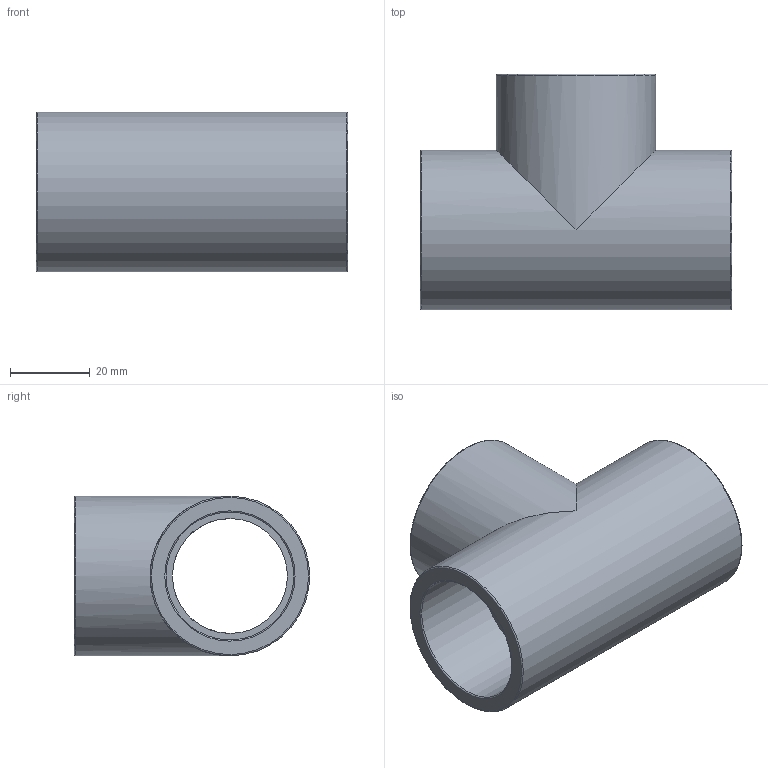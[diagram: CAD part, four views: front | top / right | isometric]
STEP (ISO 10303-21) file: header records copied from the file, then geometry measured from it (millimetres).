
FILE_DESCRIPTION(/* description */ ('PLASSON TEE-CEMENT PVC 32'),/* implementation_level */ '2;1');
FILE_NAME(/* name */ 'C:\Dropbox\KIMPROJECTS-Inventor\99-16-3568-Processing\PVC Catalog 2017\050400\050400032.ipt.stp',/* time_stamp */ '2017-12-07T15:54:22+02:00',/* author */ ('KIM'),/* organization */ (''),/* preprocessor_version */ 'ST-DEVELOPER v15.6',/* originating_system */ 'Autodesk Inventor 2015',/* authorisation */ '');
FILE_SCHEMA (('AUTOMOTIVE_DESIGN { 1 0 10303 214 3 1 1 }'));
Length unit declared in the file: millimetre
Products named in the file (1): 050400032
Bounding box: 78 x 59 x 40 mm (x, y, z)
Volume: 47337.1 mm3; surface area: 22815.6 mm2
Topology: 1 solids, 1 shells, 19 faces, 43 edges, 28 vertices
Faces by surface type: cylinder 7, torus 6, plane 6
Full cylindrical faces by diameter (mm): 28.8 x2, 32 x3, 40 x2
Entity records: 446 total; most frequent: DIRECTION 84, CARTESIAN_POINT 64, ORIENTED_EDGE 44, AXIS2_PLACEMENT_3D 42, EDGE_LOOP 40, VERTEX_POINT 22, EDGE_CURVE 22, FACE_BOUND 21
